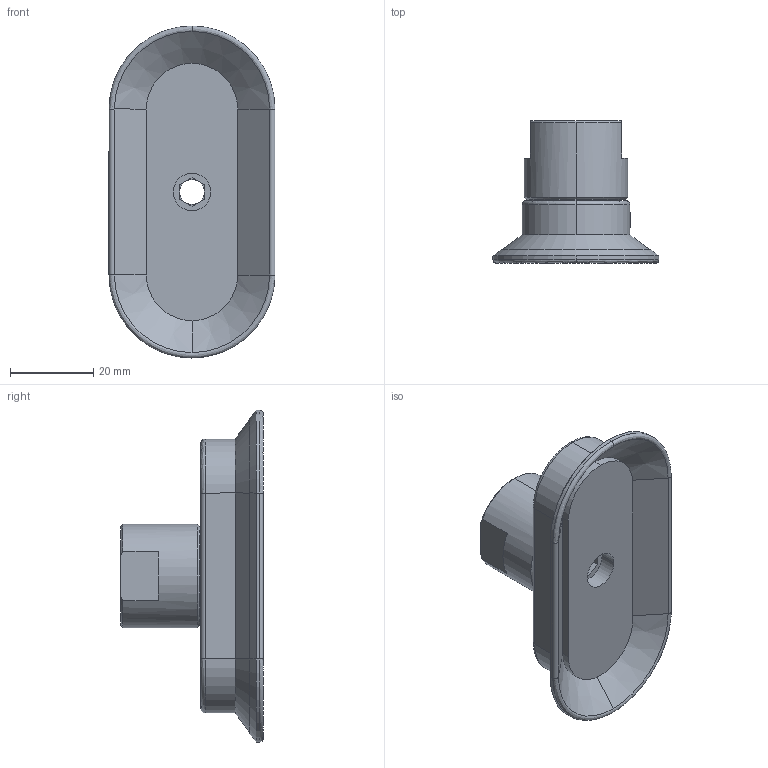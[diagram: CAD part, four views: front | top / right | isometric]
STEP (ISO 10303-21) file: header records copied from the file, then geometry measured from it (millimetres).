
FILE_DESCRIPTION (( 'STEP AP214' ), '1' );
FILE_NAME ('VOFC4080.STEP', '2019-11-26T01:57:05', ( '微软用户' ), ( '微软中国' ), 'SwSTEP 2.0', 'SolidWorks 2016', '' );
FILE_SCHEMA (( 'AUTOMOTIVE_DESIGN' ));
Length unit declared in the file: millimetre
Products named in the file (1): VOFC4080
Bounding box: 40 x 34.3 x 80 mm (x, y, z)
Volume: 25592.3 mm3; surface area: 11999.9 mm2
Topology: 2 solids, 2 shells, 142 faces, 332 edges, 205 vertices
Faces by surface type: plane 71, cylinder 27, bspline 23, cone 21
Entity records: 7563 total; most frequent: CARTESIAN_POINT 2798, ORIENTED_EDGE 664, DIRECTION 619, EDGE_CURVE 332, AXIS2_PLACEMENT_3D 208, VERTEX_POINT 205, LINE 203, VECTOR 203
